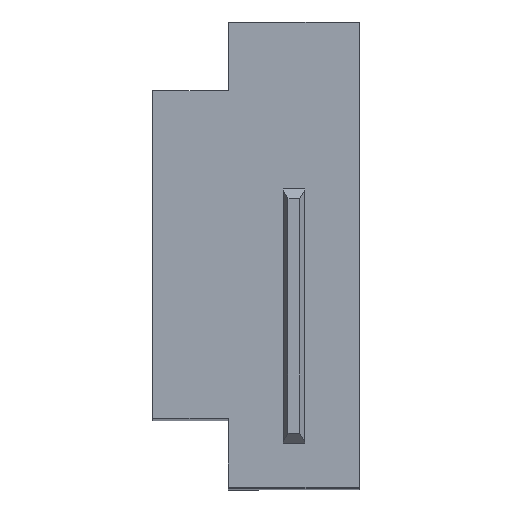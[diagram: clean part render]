
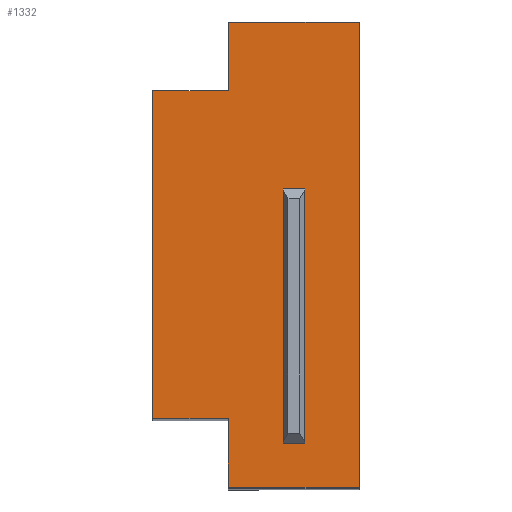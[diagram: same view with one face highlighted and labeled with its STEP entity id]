
A CAD part, top view. The second image highlights one B-rep face of the part: STEP entity #1332.
In plain terms, the highlighted planar face has unit normal (0, 0, 1).
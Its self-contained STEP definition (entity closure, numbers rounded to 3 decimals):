
#26 = DIRECTION ( 'NONE',  ( 0., 1., 0. ) ) ;
#27 = CARTESIAN_POINT ( 'NONE',  ( -3.96, 0., 0. ) ) ;
#46 = DIRECTION ( 'NONE',  ( 1., 0., 0. ) ) ;
#52 = VECTOR ( 'NONE', #277, 1000. ) ;
#53 = CARTESIAN_POINT ( 'NONE',  ( 0., 0., 0. ) ) ;
#54 = VERTEX_POINT ( 'NONE', #182 ) ;
#67 = CARTESIAN_POINT ( 'NONE',  ( -9.46, 28.75, 0. ) ) ;
#74 = CARTESIAN_POINT ( 'NONE',  ( -9.46, 28.75, 0. ) ) ;
#92 = VERTEX_POINT ( 'NONE', #192 ) ;
#112 = EDGE_CURVE ( 'NONE', #764, #1357, #1663, .T. ) ;
#148 = EDGE_CURVE ( 'NONE', #316, #214, #346, .T. ) ;
#151 = DIRECTION ( 'NONE',  ( 0., 1., 0. ) ) ;
#175 = CARTESIAN_POINT ( 'NONE',  ( 5.54, 28.75, 0. ) ) ;
#182 = CARTESIAN_POINT ( 'NONE',  ( -3.96, 5., 0. ) ) ;
#192 = CARTESIAN_POINT ( 'NONE',  ( -9.46, 5., 0. ) ) ;
#214 = VERTEX_POINT ( 'NONE', #1285 ) ;
#216 = VECTOR ( 'NONE', #1718, 1000. ) ;
#222 = ORIENTED_EDGE ( 'NONE', *, *, #1650, .F. ) ;
#228 = CARTESIAN_POINT ( 'NONE',  ( -9.46, 5., 0. ) ) ;
#238 = ORIENTED_EDGE ( 'NONE', *, *, #112, .T. ) ;
#245 = EDGE_CURVE ( 'NONE', #1357, #1433, #630, .T. ) ;
#277 = DIRECTION ( 'NONE',  ( 0., 1., 0. ) ) ;
#305 = CARTESIAN_POINT ( 'NONE',  ( 5.54, 0., 0. ) ) ;
#308 = AXIS2_PLACEMENT_3D ( 'NONE', #53, #1587, #499 ) ;
#316 = VERTEX_POINT ( 'NONE', #67 ) ;
#337 = ORIENTED_EDGE ( 'NONE', *, *, #552, .T. ) ;
#346 = LINE ( 'NONE', #74, #216 ) ;
#361 = DIRECTION ( 'NONE',  ( 0., 1., 0. ) ) ;
#397 = ORIENTED_EDGE ( 'NONE', *, *, #148, .F. ) ;
#440 = CARTESIAN_POINT ( 'NONE',  ( -9.46, 28.75, 0. ) ) ;
#467 = VECTOR ( 'NONE', #26, 1000. ) ;
#468 = PLANE ( 'NONE',  #308 ) ;
#499 = DIRECTION ( 'NONE',  ( -1., 0., 0. ) ) ;
#513 = EDGE_LOOP ( 'NONE', ( #1535, #397, #222, #1612, #1739, #238, #637, #1594, #829, #337 ) ) ;
#540 = LINE ( 'NONE', #305, #467 ) ;
#552 = EDGE_CURVE ( 'NONE', #1425, #746, #1627, .T. ) ;
#576 = DIRECTION ( 'NONE',  ( 0., -1., 0. ) ) ;
#615 = FACE_OUTER_BOUND ( 'NONE', #513, .T. ) ;
#616 = VERTEX_POINT ( 'NONE', #175 ) ;
#630 = LINE ( 'NONE', #884, #1599 ) ;
#637 = ORIENTED_EDGE ( 'NONE', *, *, #245, .T. ) ;
#683 = DIRECTION ( 'NONE',  ( -1., 0., 0. ) ) ;
#708 = LINE ( 'NONE', #1539, #925 ) ;
#746 = VERTEX_POINT ( 'NONE', #1092 ) ;
#764 = VERTEX_POINT ( 'NONE', #962 ) ;
#766 = VECTOR ( 'NONE', #151, 1000. ) ;
#817 = EDGE_CURVE ( 'NONE', #616, #1425, #540, .T. ) ;
#829 = ORIENTED_EDGE ( 'NONE', *, *, #817, .T. ) ;
#839 = DIRECTION ( 'NONE',  ( 0., -1., 0. ) ) ;
#874 = LINE ( 'NONE', #1260, #944 ) ;
#884 = CARTESIAN_POINT ( 'NONE',  ( 5.54, 0., 0. ) ) ;
#917 = CARTESIAN_POINT ( 'NONE',  ( 5.54, 0., 0. ) ) ;
#925 = VECTOR ( 'NONE', #839, 1000. ) ;
#944 = VECTOR ( 'NONE', #576, 1000. ) ;
#962 = CARTESIAN_POINT ( 'NONE',  ( -3.96, 0., 0. ) ) ;
#1028 = LINE ( 'NONE', #228, #1520 ) ;
#1092 = CARTESIAN_POINT ( 'NONE',  ( -3.96, 33.75, 0. ) ) ;
#1108 = LINE ( 'NONE', #440, #766 ) ;
#1260 = CARTESIAN_POINT ( 'NONE',  ( -3.96, 0., 0. ) ) ;
#1285 = CARTESIAN_POINT ( 'NONE',  ( -3.96, 28.75, 0. ) ) ;
#1332 = ADVANCED_FACE ( 'NONE', ( #615 ), #468, .F. ) ;
#1336 = CARTESIAN_POINT ( 'NONE',  ( -3.96, 33.75, 0. ) ) ;
#1357 = VERTEX_POINT ( 'NONE', #917 ) ;
#1368 = VECTOR ( 'NONE', #46, 1000. ) ;
#1374 = EDGE_CURVE ( 'NONE', #92, #54, #1028, .T. ) ;
#1396 = LINE ( 'NONE', #1514, #52 ) ;
#1425 = VERTEX_POINT ( 'NONE', #1431 ) ;
#1431 = CARTESIAN_POINT ( 'NONE',  ( 5.54, 33.75, 0. ) ) ;
#1433 = VERTEX_POINT ( 'NONE', #1733 ) ;
#1448 = VECTOR ( 'NONE', #683, 1000. ) ;
#1514 = CARTESIAN_POINT ( 'NONE',  ( 5.54, 0., 0. ) ) ;
#1517 = EDGE_CURVE ( 'NONE', #1433, #616, #1396, .T. ) ;
#1520 = VECTOR ( 'NONE', #1743, 1000. ) ;
#1535 = ORIENTED_EDGE ( 'NONE', *, *, #1581, .T. ) ;
#1539 = CARTESIAN_POINT ( 'NONE',  ( -3.96, 0., 0. ) ) ;
#1581 = EDGE_CURVE ( 'NONE', #746, #214, #708, .T. ) ;
#1587 = DIRECTION ( 'NONE',  ( 0., 0., -1. ) ) ;
#1594 = ORIENTED_EDGE ( 'NONE', *, *, #1517, .T. ) ;
#1599 = VECTOR ( 'NONE', #361, 1000. ) ;
#1612 = ORIENTED_EDGE ( 'NONE', *, *, #1374, .T. ) ;
#1627 = LINE ( 'NONE', #1336, #1448 ) ;
#1632 = EDGE_CURVE ( 'NONE', #54, #764, #874, .T. ) ;
#1650 = EDGE_CURVE ( 'NONE', #92, #316, #1108, .T. ) ;
#1663 = LINE ( 'NONE', #27, #1368 ) ;
#1718 = DIRECTION ( 'NONE',  ( 1., 0., 0. ) ) ;
#1733 = CARTESIAN_POINT ( 'NONE',  ( 5.54, 5., 0. ) ) ;
#1739 = ORIENTED_EDGE ( 'NONE', *, *, #1632, .T. ) ;
#1743 = DIRECTION ( 'NONE',  ( 1., 0., 0. ) ) ;
